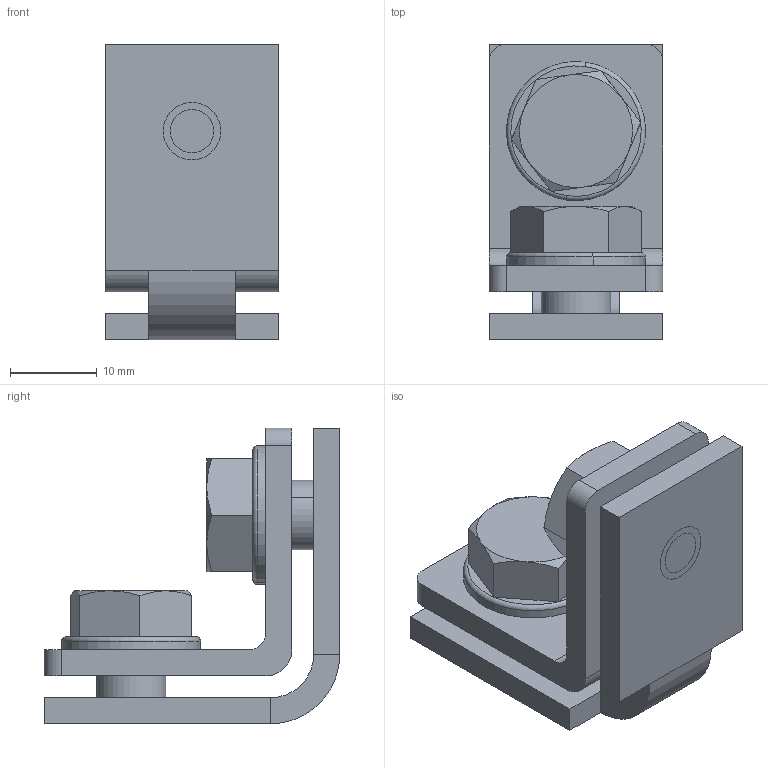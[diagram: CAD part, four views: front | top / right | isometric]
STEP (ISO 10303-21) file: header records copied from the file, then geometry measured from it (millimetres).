
FILE_DESCRIPTION (( 'STEP AP214' ), '1' );
FILE_NAME ('FBRY-20.STEP', '2012-08-24T07:55:40', ( 'gs' ), ( 'Microsoft' ), 'SwSTEP 2.0', 'SolidWorks 2012', '' );
FILE_SCHEMA (( 'AUTOMOTIVE_DESIGN' ));
Length unit declared in the file: millimetre
Products named in the file (5): Rondelle_DIA_M8; Vis TH M8x20_8x10; FBRX-20A; FBRY-20A; FBRY-20
Assembly tree (6 placements, depth 2):
  FBRY-20
    FBRY-20A
    FBRX-20A
    Vis TH M8x20_8x10  x2
    Rondelle_DIA_M8  x2
Bounding box: 20 x 34 x 34 mm (x, y, z)
Volume: 8944.7 mm3; surface area: 7552.2 mm2
Topology: 6 solids, 6 shells, 103 faces, 235 edges, 146 vertices
Faces by surface type: plane 50, cylinder 29, cone 16, torus 8
Entity records: 2443 total; most frequent: CARTESIAN_POINT 436, DIRECTION 391, ORIENTED_EDGE 350, EDGE_CURVE 175, AXIS2_PLACEMENT_3D 145, VERTEX_POINT 110, VECTOR 101, LINE 101
